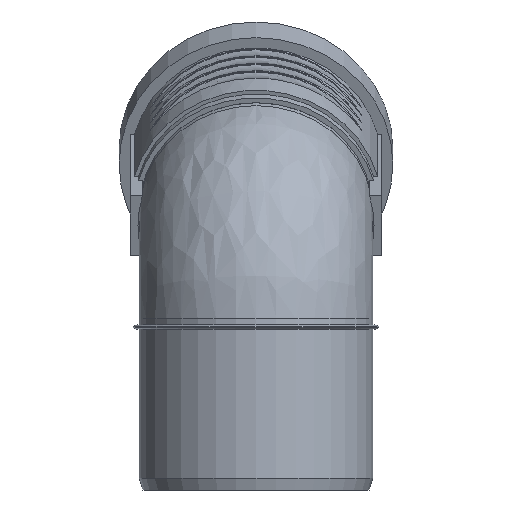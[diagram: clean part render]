
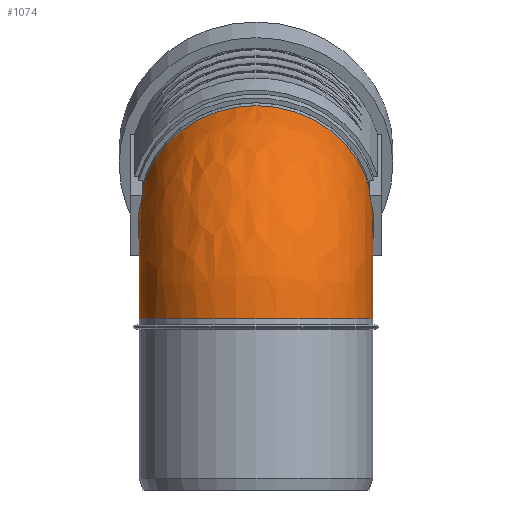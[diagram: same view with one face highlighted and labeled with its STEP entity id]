
A CAD part, left-side view. The second image highlights one B-rep face of the part: STEP entity #1074.
In plain terms, the highlighted free-form (B-spline) face has degree [2, 2] with [9, 9] control points.
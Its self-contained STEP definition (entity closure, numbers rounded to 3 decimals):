
#142=(
BOUNDED_SURFACE()
B_SPLINE_SURFACE(2,2,((#1588,#1589,#1590,#1591,#1592,#1593,#1594,#1595,
#1596),(#1597,#1598,#1599,#1600,#1601,#1602,#1603,#1604,#1605),(#1606,#1607,
#1608,#1609,#1610,#1611,#1612,#1613,#1614),(#1615,#1616,#1617,#1618,#1619,
#1620,#1621,#1622,#1623),(#1624,#1625,#1626,#1627,#1628,#1629,#1630,#1631,
#1632),(#1633,#1634,#1635,#1636,#1637,#1638,#1639,#1640,#1641),(#1642,#1643,
#1644,#1645,#1646,#1647,#1648,#1649,#1650),(#1651,#1652,#1653,#1654,#1655,
#1656,#1657,#1658,#1659),(#1660,#1661,#1662,#1663,#1664,#1665,#1666,#1667,
#1668)),.UNSPECIFIED.,.T.,.T.,.F.)
B_SPLINE_SURFACE_WITH_KNOTS((3,2,2,2,3),(3,2,2,2,3),(-3.142,
-1.571,0.,1.571,3.142),(-3.142,
-1.571,0.,1.571,3.142),.UNSPECIFIED.)
GEOMETRIC_REPRESENTATION_ITEM()
RATIONAL_B_SPLINE_SURFACE(((1.,0.707,1.,0.707,1.,
0.707,1.,0.707,1.),(0.707,0.5,0.707,
0.5,0.707,0.5,0.707,0.5,0.707),(1.,
0.707,1.,0.707,1.,0.707,1.,0.707,
1.),(0.707,0.5,0.707,0.5,
0.707,0.5,0.707,0.5,
0.707),(1.,0.707,1.,0.707,1.,0.707,
1.,0.707,1.),(0.707,0.5,0.707,
0.5,0.707,0.5,0.707,
0.5,0.707),(1.,0.707,1.,0.707,
1.,0.707,1.,0.707,1.),(0.707,0.5,0.707,
0.5,0.707,0.5,0.707,0.5,0.707),(1.,
0.707,1.,0.707,1.,0.707,1.,0.707,
1.)))
REPRESENTATION_ITEM($)
SURFACE()
);
#260=FACE_OUTER_BOUND($,#331,.T.);
#331=EDGE_LOOP($,(#734,#735));
#425=CIRCLE($,#1158,45.1);
#426=CIRCLE($,#1159,45.1);
#480=VERTEX_POINT($,#1586);
#586=EDGE_CURVE($,#480,#480,#425,.T.);
#587=EDGE_CURVE($,#480,#480,#426,.T.);
#734=ORIENTED_EDGE($,*,*,#586,.T.);
#735=ORIENTED_EDGE($,*,*,#587,.F.);
#1074=ADVANCED_FACE($,(#260),#142,.F.);
#1158=AXIS2_PLACEMENT_3D($,#1587,#1307,#1308);
#1159=AXIS2_PLACEMENT_3D($,#1669,#1309,#1310);
#1307=DIRECTION('center_axis',(-0.924,0.,-0.383));
#1308=DIRECTION('ref_axis',(-0.383,0.,0.924));
#1309=DIRECTION('center_axis',(0.,0.,-1.));
#1310=DIRECTION('ref_axis',(-1.,0.,0.));
#1586=CARTESIAN_POINT('',(45.1,0.,66.23));
#1587=CARTESIAN_POINT('Origin',(27.841,0.,107.897));
#1588=CARTESIAN_POINT('Ctrl Pts',(45.1,0.,66.23));
#1589=CARTESIAN_POINT('Ctrl Pts',(45.1,0.,66.23));
#1590=CARTESIAN_POINT('Ctrl Pts',(45.1,0.,66.23));
#1591=CARTESIAN_POINT('Ctrl Pts',(45.1,0.,66.23));
#1592=CARTESIAN_POINT('Ctrl Pts',(45.1,0.,66.23));
#1593=CARTESIAN_POINT('Ctrl Pts',(45.1,0.,66.23));
#1594=CARTESIAN_POINT('Ctrl Pts',(45.1,0.,66.23));
#1595=CARTESIAN_POINT('Ctrl Pts',(45.1,0.,66.23));
#1596=CARTESIAN_POINT('Ctrl Pts',(45.1,0.,66.23));
#1597=CARTESIAN_POINT('Ctrl Pts',(45.1,-45.1,66.23));
#1598=CARTESIAN_POINT('Ctrl Pts',(45.1,-45.1,66.23));
#1599=CARTESIAN_POINT('Ctrl Pts',(45.1,-45.1,66.23));
#1600=CARTESIAN_POINT('Ctrl Pts',(45.1,-45.1,66.23));
#1601=CARTESIAN_POINT('Ctrl Pts',(45.1,-45.1,66.23));
#1602=CARTESIAN_POINT('Ctrl Pts',(45.1,-45.1,66.23));
#1603=CARTESIAN_POINT('Ctrl Pts',(45.1,-45.1,66.23));
#1604=CARTESIAN_POINT('Ctrl Pts',(45.1,-45.1,66.23));
#1605=CARTESIAN_POINT('Ctrl Pts',(45.1,-45.1,66.23));
#1606=CARTESIAN_POINT('Ctrl Pts',(45.1,-45.1,21.13));
#1607=CARTESIAN_POINT('Ctrl Pts',(0.,-45.1,21.13));
#1608=CARTESIAN_POINT('Ctrl Pts',(0.,-45.1,66.23));
#1609=CARTESIAN_POINT('Ctrl Pts',(0.,-45.1,111.33));
#1610=CARTESIAN_POINT('Ctrl Pts',(45.1,-45.1,111.33));
#1611=CARTESIAN_POINT('Ctrl Pts',(90.2,-45.1,111.33));
#1612=CARTESIAN_POINT('Ctrl Pts',(90.2,-45.1,66.23));
#1613=CARTESIAN_POINT('Ctrl Pts',(90.2,-45.1,21.13));
#1614=CARTESIAN_POINT('Ctrl Pts',(45.1,-45.1,21.13));
#1615=CARTESIAN_POINT('Ctrl Pts',(45.1,-45.1,-23.97));
#1616=CARTESIAN_POINT('Ctrl Pts',(-45.1,-45.1,-23.97));
#1617=CARTESIAN_POINT('Ctrl Pts',(-45.1,-45.1,66.23));
#1618=CARTESIAN_POINT('Ctrl Pts',(-45.1,-45.1,156.43));
#1619=CARTESIAN_POINT('Ctrl Pts',(45.1,-45.1,156.43));
#1620=CARTESIAN_POINT('Ctrl Pts',(135.3,-45.1,156.43));
#1621=CARTESIAN_POINT('Ctrl Pts',(135.3,-45.1,66.23));
#1622=CARTESIAN_POINT('Ctrl Pts',(135.3,-45.1,-23.97));
#1623=CARTESIAN_POINT('Ctrl Pts',(45.1,-45.1,-23.97));
#1624=CARTESIAN_POINT('Ctrl Pts',(45.1,0.,-23.97));
#1625=CARTESIAN_POINT('Ctrl Pts',(-45.1,0.,-23.97));
#1626=CARTESIAN_POINT('Ctrl Pts',(-45.1,0.,66.23));
#1627=CARTESIAN_POINT('Ctrl Pts',(-45.1,0.,156.43));
#1628=CARTESIAN_POINT('Ctrl Pts',(45.1,0.,156.43));
#1629=CARTESIAN_POINT('Ctrl Pts',(135.3,0.,156.43));
#1630=CARTESIAN_POINT('Ctrl Pts',(135.3,0.,66.23));
#1631=CARTESIAN_POINT('Ctrl Pts',(135.3,0.,-23.97));
#1632=CARTESIAN_POINT('Ctrl Pts',(45.1,0.,-23.97));
#1633=CARTESIAN_POINT('Ctrl Pts',(45.1,45.1,-23.97));
#1634=CARTESIAN_POINT('Ctrl Pts',(-45.1,45.1,-23.97));
#1635=CARTESIAN_POINT('Ctrl Pts',(-45.1,45.1,66.23));
#1636=CARTESIAN_POINT('Ctrl Pts',(-45.1,45.1,156.43));
#1637=CARTESIAN_POINT('Ctrl Pts',(45.1,45.1,156.43));
#1638=CARTESIAN_POINT('Ctrl Pts',(135.3,45.1,156.43));
#1639=CARTESIAN_POINT('Ctrl Pts',(135.3,45.1,66.23));
#1640=CARTESIAN_POINT('Ctrl Pts',(135.3,45.1,-23.97));
#1641=CARTESIAN_POINT('Ctrl Pts',(45.1,45.1,-23.97));
#1642=CARTESIAN_POINT('Ctrl Pts',(45.1,45.1,21.13));
#1643=CARTESIAN_POINT('Ctrl Pts',(0.,45.1,21.13));
#1644=CARTESIAN_POINT('Ctrl Pts',(0.,45.1,66.23));
#1645=CARTESIAN_POINT('Ctrl Pts',(0.,45.1,111.33));
#1646=CARTESIAN_POINT('Ctrl Pts',(45.1,45.1,111.33));
#1647=CARTESIAN_POINT('Ctrl Pts',(90.2,45.1,111.33));
#1648=CARTESIAN_POINT('Ctrl Pts',(90.2,45.1,66.23));
#1649=CARTESIAN_POINT('Ctrl Pts',(90.2,45.1,21.13));
#1650=CARTESIAN_POINT('Ctrl Pts',(45.1,45.1,21.13));
#1651=CARTESIAN_POINT('Ctrl Pts',(45.1,45.1,66.23));
#1652=CARTESIAN_POINT('Ctrl Pts',(45.1,45.1,66.23));
#1653=CARTESIAN_POINT('Ctrl Pts',(45.1,45.1,66.23));
#1654=CARTESIAN_POINT('Ctrl Pts',(45.1,45.1,66.23));
#1655=CARTESIAN_POINT('Ctrl Pts',(45.1,45.1,66.23));
#1656=CARTESIAN_POINT('Ctrl Pts',(45.1,45.1,66.23));
#1657=CARTESIAN_POINT('Ctrl Pts',(45.1,45.1,66.23));
#1658=CARTESIAN_POINT('Ctrl Pts',(45.1,45.1,66.23));
#1659=CARTESIAN_POINT('Ctrl Pts',(45.1,45.1,66.23));
#1660=CARTESIAN_POINT('Ctrl Pts',(45.1,0.,66.23));
#1661=CARTESIAN_POINT('Ctrl Pts',(45.1,0.,66.23));
#1662=CARTESIAN_POINT('Ctrl Pts',(45.1,0.,66.23));
#1663=CARTESIAN_POINT('Ctrl Pts',(45.1,0.,66.23));
#1664=CARTESIAN_POINT('Ctrl Pts',(45.1,0.,66.23));
#1665=CARTESIAN_POINT('Ctrl Pts',(45.1,0.,66.23));
#1666=CARTESIAN_POINT('Ctrl Pts',(45.1,0.,66.23));
#1667=CARTESIAN_POINT('Ctrl Pts',(45.1,0.,66.23));
#1668=CARTESIAN_POINT('Ctrl Pts',(45.1,0.,66.23));
#1669=CARTESIAN_POINT('Origin',(0.,0.,66.23));
